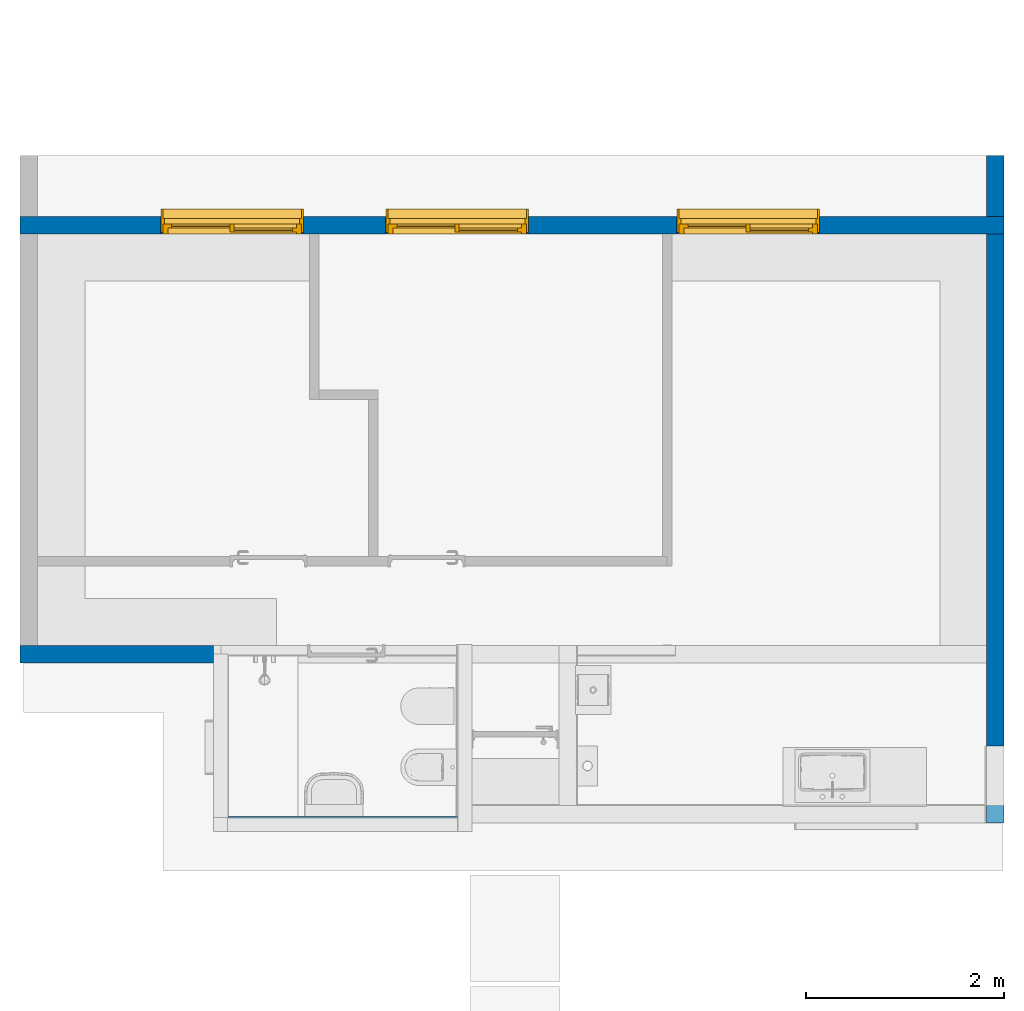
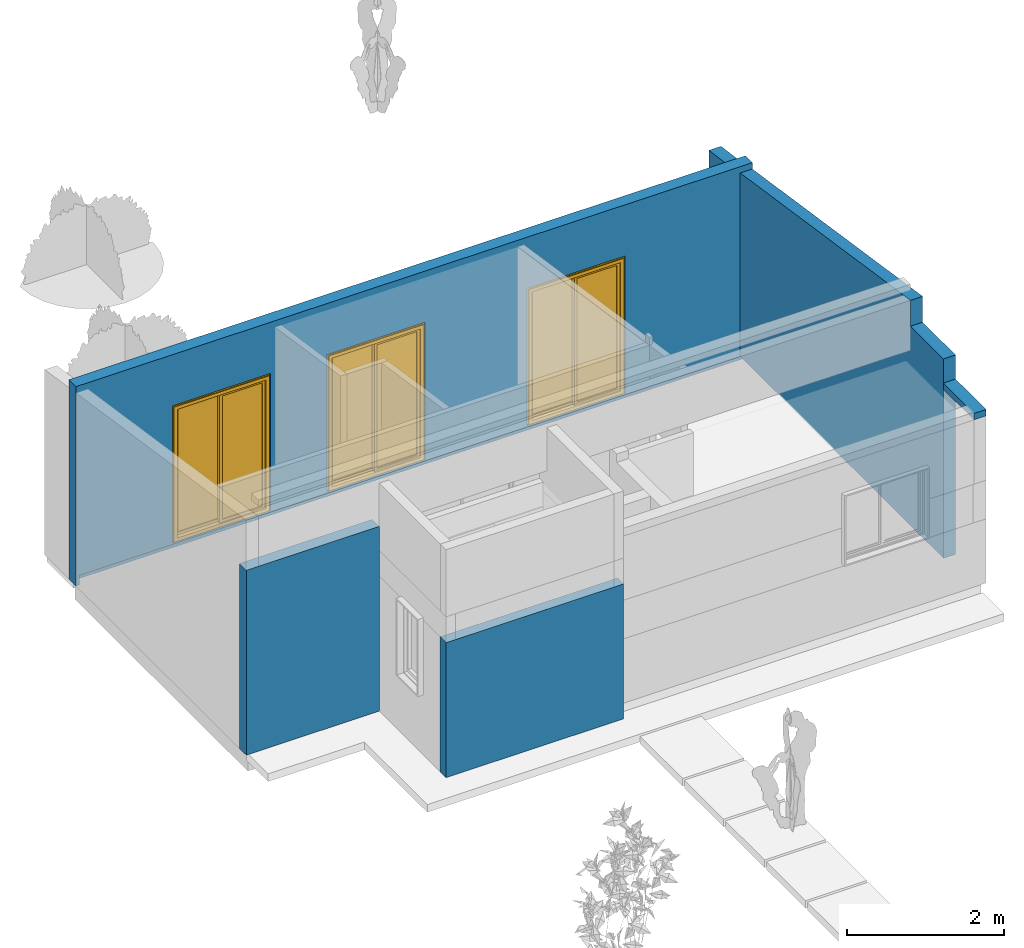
# One storey, part 3 of 10: 6 walls, 6 windows, 7 openings.
"""IFC2X3 building model written with IfcOpenShell, lengths in metres."""

from ifc_helpers import new_model, entity, si_unit, converted_unit, derived_unit, direction, frame, frame_2d, origin, origin_2d_with_axis, place, context, subcontext, project, spatial, polyline, rectangle, outline, extrude, clip, halfspace, bounded_halfspace, faceted_brep, source, transform, mapped, material, material_list, layer, layer_set, layer_usage, type_object, type_shapes, element, fill, save


model = new_model("IFC2X3")

# Units and contexts
model_context = context("Model", 3, precision=1e-05, world=origin(), true_north=direction((6.12303176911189e-17, 1.0)))
body_context = subcontext(model_context, "Body", "Model", "MODEL_VIEW")
ifc_project = project(units=[si_unit("LENGTHUNIT", "METRE"), si_unit("AREAUNIT", "SQUARE_METRE"), si_unit("VOLUMEUNIT", "CUBIC_METRE"), converted_unit("PLANEANGLEUNIT", "DEGREE", entity("IfcRatioMeasure", 0.0174532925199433), si_unit("PLANEANGLEUNIT", "RADIAN"), dimensions=[0, 0, 0, 0, 0, 0, 0]), si_unit("MASSUNIT", "GRAM", prefix="KILO"), derived_unit("MASSDENSITYUNIT", [(si_unit("MASSUNIT", "GRAM", prefix="KILO"), 1), (si_unit("LENGTHUNIT", "METRE"), -3)]), si_unit("TIMEUNIT", "SECOND"), si_unit("FREQUENCYUNIT", "HERTZ"), si_unit("THERMODYNAMICTEMPERATUREUNIT", "DEGREE_CELSIUS"), derived_unit("THERMALTRANSMITTANCEUNIT", [(si_unit("MASSUNIT", "GRAM", prefix="KILO"), 1), (si_unit("THERMODYNAMICTEMPERATUREUNIT", "KELVIN"), -1), (si_unit("TIMEUNIT", "SECOND"), -3)]), derived_unit("VOLUMETRICFLOWRATEUNIT", [(si_unit("LENGTHUNIT", "METRE"), 3), (si_unit("TIMEUNIT", "SECOND"), -1)]), si_unit("ELECTRICCURRENTUNIT", "AMPERE"), si_unit("ELECTRICVOLTAGEUNIT", "VOLT"), si_unit("POWERUNIT", "WATT"), si_unit("FORCEUNIT", "NEWTON", prefix="KILO"), si_unit("ILLUMINANCEUNIT", "LUX"), si_unit("LUMINOUSFLUXUNIT", "LUMEN"), si_unit("LUMINOUSINTENSITYUNIT", "CANDELA"), derived_unit("USERDEFINED", [(si_unit("MASSUNIT", "GRAM", prefix="KILO"), -1), (si_unit("LENGTHUNIT", "METRE"), -2), (si_unit("TIMEUNIT", "SECOND"), 3), (si_unit("LUMINOUSFLUXUNIT", "LUMEN"), 1)]), derived_unit("LINEARVELOCITYUNIT", [(si_unit("LENGTHUNIT", "METRE"), 1), (si_unit("TIMEUNIT", "SECOND"), -1)]), si_unit("PRESSUREUNIT", "PASCAL"), derived_unit("USERDEFINED", [(si_unit("LENGTHUNIT", "METRE"), -2), (si_unit("MASSUNIT", "GRAM", prefix="KILO"), 1), (si_unit("TIMEUNIT", "SECOND"), -2)])], contexts=[model_context])

# Site, building, storey
site_placement = place(None, origin())
site = spatial("IfcSite", under=ifc_project, at=site_placement, Name="Surface", CompositionType="ELEMENT")
building_placement = place(site_placement, origin())
building = spatial("IfcBuilding", under=site, at=building_placement, CompositionType="ELEMENT")
storey_placement = place(building_placement, origin())
storey = spatial("IfcBuildingStorey", under=building, at=storey_placement, Name="Nivel 0.0", CompositionType="ELEMENT", Elevation=0.0)

# Walls
ifc_material_1 = material(Name="EIFS")
ifc_layer_1 = layer(ifc_material_1, 0.05)
ifc_material_2 = material(Name="Aislación hidrófuga")
ifc_layer_2 = layer(ifc_material_2, 0.005)
ifc_material_3 = material(Name="OSB")
ifc_layer_3 = layer(ifc_material_3, 0.011)
ifc_material_4 = material(Name="Bastidor metálico")
ifc_layer_4 = layer(ifc_material_4, 0.1)
ifc_material_5 = material(Name="Placa cementicia")
ifc_layer_5 = layer(ifc_material_5, 0.012)
ifc_layer_set_1 = layer_set([ifc_layer_1, ifc_layer_2, ifc_layer_3, ifc_layer_4, ifc_layer_5], Name="Basic Wall:Pe-SF-001")
ifc_layer_usage_1 = layer_usage(ifc_layer_set_1, "AXIS2", "POSITIVE", -0.089)
wall_type_1 = type_object("IfcWallType", Name="Basic Wall:Pe-SF-001", PredefinedType="STANDARD", material=ifc_layer_set_1)
wall_1_placement = place(storey_placement, frame((0.850414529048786, -3.43054870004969, 2.6), z_axis=(0.0, 0.0, 1.0), x_axis=(0.0, 1.0, 0.0)))
element("IfcWallStandardCase", 1, at=wall_1_placement, inside=storey, type_object=wall_type_1, material=ifc_layer_usage_1, Name="Basic Wall:Pe-SF-001", ObjectType="Basic Wall:Pe-SF-001", context=body_context, shape_type="SweptSolid", body=[
    extrude(rectangle(XDim=0.77876337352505, YDim=0.178, at=frame_2d((0.389381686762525, 2.08166817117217e-17), x_axis=(-1.0, 0.0))), origin(), (0.0, 0.0, 1.0), 0.0999999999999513),
])
ifc_layer_usage_2 = layer_usage(ifc_layer_set_1, "AXIS2", "POSITIVE", -0.089)
wall_2_placement = place(storey_placement, frame((0.850414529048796, 2.70421467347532, -0.175816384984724), z_axis=(0.0, 0.0, 1.0), x_axis=(0.0, 1.0, 0.0)))
element("IfcWallStandardCase", 2, at=wall_2_placement, inside=storey, type_object=wall_type_1, material=ifc_layer_usage_2, Name="Basic Wall:Pe-SF-001", ObjectType="Basic Wall:Pe-SF-001", context=body_context, shape_type="Clipping", body=[
    clip(extrude(rectangle(XDim=0.616637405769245, YDim=0.178, at=frame_2d((0.308318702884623, 2.77555756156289e-17), x_axis=(-1.0, 0.0))), origin(), (0.0, 0.0, 1.0), 2.95545379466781), halfspace(frame((0.0, -0.0889999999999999, 2.95545379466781), z_axis=(0.130665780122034, 0.0, 0.991426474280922), x_axis=(0.0, 1.0, 0.0)), False)),
])
ifc_material_6 = material(Name="Placa roca de Yeso 12,5mm")
ifc_material_list_1 = material_list([ifc_material_1, ifc_material_2, ifc_material_3, ifc_material_4, ifc_material_6])
ifc_layer_6 = layer(ifc_material_1, 0.05)
ifc_layer_7 = layer(ifc_material_2, 0.005)
ifc_layer_8 = layer(ifc_material_3, 0.011)
ifc_layer_9 = layer(ifc_material_4, 0.1)
ifc_layer_10 = layer(ifc_material_6, 0.012)
ifc_layer_set_2 = layer_set([ifc_layer_6, ifc_layer_7, ifc_layer_8, ifc_layer_9, ifc_layer_10], Name="Basic Wall:Pe-SF-002")
wall_type_2 = type_object("IfcWallType", Name="Basic Wall:Pe-SF-002", PredefinedType="STANDARD", material=ifc_layer_set_2)
wall_3_placement = place(storey_placement, frame((-9.00808547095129, -1.72354870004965, -0.175)))
element("IfcWall", 3, at=wall_3_placement, inside=storey, type_object=wall_type_2, material=ifc_material_list_1, Name="Basic Wall:Pe-SF-002", ObjectType="Basic Wall:Pe-SF-002", context=body_context, shape_type="Brep", body=[
    faceted_brep([(0.0, -0.0889999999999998, 0.0), (1.95607178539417, -0.0890000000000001, 0.0), (1.95607178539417, -0.0890000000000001, 2.87499999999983), (0.0, -0.0889999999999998, 2.87499999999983), (0.0, 0.0890000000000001, 2.87499999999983), (0.177999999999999, 0.0889999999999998, 2.87499999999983), (1.95607178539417, 0.0889999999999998, 2.87499999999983), (1.95607178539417, 0.0889999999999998, 0.15), (0.177999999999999, 0.0889999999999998, 0.15), (0.05500000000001, 0.0889999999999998, 0.15), (0.05500000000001, 0.0889999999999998, 0.0), (0.0, 0.0890000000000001, 0.0), (0.0550000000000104, -0.0340000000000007, 0.0), (1.95607178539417, -0.0339999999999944, 0.0), (0.0, -0.0885000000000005, 2.87499999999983), (0.0550000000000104, -0.0340000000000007, 0.15), (1.95607178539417, 0.0, 0.15), (1.95607178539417, -0.0339999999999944, 0.15)], [[[0, 1, 2, 3]], [[4, 5, 6, 7, 8, 9, 10, 11]], [[1, 0, 11, 10, 12, 13]], [[3, 2, 6, 5, 4, 14]], [[0, 3, 14, 4, 11]], [[15, 9, 8, 7, 16, 17]], [[15, 12, 10, 9]], [[12, 15, 17, 13]], [[2, 1, 13, 17, 16, 7, 6]]]),
])

# Wall, openings, windows
ifc_layer_usage_3 = layer_usage(ifc_layer_set_2, "AXIS2", "POSITIVE", -0.089)
wall_4_placement = place(storey_placement, frame((0.939414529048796, 2.61521467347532, -0.175), z_axis=(0.0, 0.0, 1.0), x_axis=(-1.0, 0.0, 0.0)))
wall_4 = element("IfcWallStandardCase", 4, at=wall_4_placement, inside=storey, type_object=wall_type_2, material=ifc_layer_usage_3, Name="Basic Wall:Pe-SF-002", ObjectType="Basic Wall:Pe-SF-002", context=body_context, shape_type="SweptSolid", body=[
    extrude(rectangle(XDim=9.94775000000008, YDim=0.178, at=frame_2d((4.97387500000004, -1.87350135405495e-16), x_axis=(-1.0, 0.0))), origin(), (0.0, 0.0, 1.0), 3.1),
])
opening_1_placement = place(storey_placement, frame((0.939414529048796, 2.61521467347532, -0.175), z_axis=(0.0, 0.0, 1.0), x_axis=(-1.0, 0.0, 0.0)))
element("IfcOpeningElement", 5, at=opening_1_placement, cuts=wall_4, Name="Basic Wall:Pe-SF-002:1", ObjectType="Opening", context=body_context, shape_type="SweptSolid", body=[
    extrude(rectangle(XDim=0.15, YDim=0.122999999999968, at=frame_2d((0.0, -2.70616862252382e-16), x_axis=(1.0, 0.0))), frame((9.89250000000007, 0.0275000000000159, 0.0750000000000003), z_axis=(-1.0, 0.0, 0.0), x_axis=(0.0, 0.0, 1.0)), (0.0, 0.0, 1.0), 9.84800000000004),
])
opening_2_placement = place(wall_4_placement, frame((8.50405141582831, 0.0889999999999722, 0.174183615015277)))
opening_2 = element("IfcOpeningElement", 6, at=opening_2_placement, cuts=wall_4, Name="Vtana Corrediza:PV1:1", ObjectType="Opening", context=body_context, shape_type="SweptSolid", body=[
    extrude(rectangle(XDim=2.1, YDim=1.4, at=frame_2d((1.05, 0.7), x_axis=(1.0, 0.0))), frame((0.0, 0.0, 0.0), z_axis=(0.0, -1.0, 0.0), x_axis=(0.0, 0.0, 1.0)), (0.0, 0.0, 1.0), 0.178),
])
opening_3_placement = place(wall_4_placement, frame((8.52905141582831, 0.0889999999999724, 0.174183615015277)))
opening_3 = element("IfcOpeningElement", 7, at=opening_3_placement, cuts=wall_4, Name="Premarco metálico:Premarco metálico PV1:1", ObjectType="Opening", context=body_context, shape_type="SweptSolid", body=[
    extrude(rectangle(XDim=2.13, YDim=1.44, at=frame_2d((1.065, 0.719999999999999), x_axis=(1.0, 0.0))), frame((0.0, 0.0, 0.0), z_axis=(0.0, -1.0, 0.0), x_axis=(0.0, 0.0, 1.0)), (0.0, 0.0, 1.0), 0.178),
])
opening_4_placement = place(wall_4_placement, frame((6.22850000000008, 0.0889999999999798, 0.174183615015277)))
opening_4 = element("IfcOpeningElement", 8, at=opening_4_placement, cuts=wall_4, Name="Vtana Corrediza:PV1:1", ObjectType="Opening", context=body_context, shape_type="SweptSolid", body=[
    extrude(rectangle(XDim=2.1, YDim=1.4, at=frame_2d((1.05, 0.7), x_axis=(1.0, 0.0))), frame((0.0, 0.0, 0.0), z_axis=(0.0, -1.0, 0.0), x_axis=(0.0, 0.0, 1.0)), (0.0, 0.0, 1.0), 0.178),
])
opening_5_placement = place(wall_4_placement, frame((6.25350000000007, 0.0889999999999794, 0.174183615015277)))
opening_5 = element("IfcOpeningElement", 9, at=opening_5_placement, cuts=wall_4, Name="Premarco metálico:Premarco metálico PV1:1", ObjectType="Opening", context=body_context, shape_type="SweptSolid", body=[
    extrude(rectangle(XDim=2.13, YDim=1.44, at=frame_2d((1.065, 0.719999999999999), x_axis=(1.0, 0.0))), frame((0.0, 0.0, 0.0), z_axis=(0.0, -1.0, 0.0), x_axis=(0.0, 0.0, 1.0)), (0.0, 0.0, 1.0), 0.178),
])
opening_6_placement = place(wall_4_placement, frame((3.28650012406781, 0.088999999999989, 0.174183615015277)))
opening_6 = element("IfcOpeningElement", 10, at=opening_6_placement, cuts=wall_4, Name="Vtana Corrediza:PV1:1", ObjectType="Opening", context=body_context, shape_type="SweptSolid", body=[
    extrude(rectangle(XDim=2.1, YDim=1.4, at=frame_2d((1.05, 0.7), x_axis=(1.0, 0.0))), frame((0.0, 0.0, 0.0), z_axis=(0.0, -1.0, 0.0), x_axis=(0.0, 0.0, 1.0)), (0.0, 0.0, 1.0), 0.178),
])
opening_7_placement = place(wall_4_placement, frame((3.3115001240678, 0.0889999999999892, 0.174183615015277)))
opening_7 = element("IfcOpeningElement", 11, at=opening_7_placement, cuts=wall_4, Name="Premarco metálico:Premarco metálico PV1:1", ObjectType="Opening", context=body_context, shape_type="SweptSolid", body=[
    extrude(rectangle(XDim=2.13, YDim=1.44, at=frame_2d((1.065, 0.719999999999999), x_axis=(1.0, 0.0))), frame((0.0, 0.0, 0.0), z_axis=(0.0, -1.0, 0.0), x_axis=(0.0, 0.0, 1.0)), (0.0, 0.0, 1.0), 0.178),
])
ifc_material_7 = material(Name="Glass")
ifc_material_8 = material(Name="Laminate, White")
ifc_material_list_2 = material_list([ifc_material_7, ifc_material_8])
ifc_material_list_3 = material_list([ifc_material_7, ifc_material_8])
window_style_1 = type_object("IfcWindowStyle", Name="PV1", ConstructionType="NOTDEFINED", OperationType="NOTDEFINED", ParameterTakesPrecedence=False, Sizeable=False, material=ifc_material_list_3)
shared_shape_1 = source(origin(), body_context, "Body", "SweptSolid", [
    extrude(rectangle(XDim=0.59, YDim=0.00500000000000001, at=frame_2d((2.77555756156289e-17, 4.33680868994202e-18), x_axis=(1.0, 0.0))), frame((1.01500000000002, 0.0374999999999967, 0.0900000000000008)), (0.0, 0.0, 1.0), 1.91999999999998),
    extrude(rectangle(XDim=0.590000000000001, YDim=0.005, at=origin_2d_with_axis()), frame((0.385000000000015, 0.0774999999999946, 0.0900000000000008)), (0.0, 0.0, 1.0), 1.91999999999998),
    extrude(outline(polyline([(-0.334999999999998, -1.0), (0.334999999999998, -1.0), (0.334999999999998, 1.0), (-0.334999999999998, 1.0), (-0.334999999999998, -1.0)]), holes=[polyline([(-0.294999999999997, -0.959999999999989), (-0.294999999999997, 0.959999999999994), (0.294999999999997, 0.959999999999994), (0.294999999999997, -0.959999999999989), (-0.294999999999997, -0.959999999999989)])]), frame((1.01500000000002, 0.0599999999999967, 1.04999999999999), z_axis=(0.0, -1.0, 0.0), x_axis=(-1.0, 0.0, 0.0)), (0.0, 0.0, 1.0), 0.04),
    extrude(outline(polyline([(-0.335000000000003, -1.0), (0.335000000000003, -1.0), (0.335000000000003, 1.0), (-0.335000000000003, 1.0), (-0.335000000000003, -1.0)]), holes=[polyline([(0.295000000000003, -0.959999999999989), (-0.295000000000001, -0.959999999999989), (-0.295000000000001, 0.959999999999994), (0.295000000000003, 0.959999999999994), (0.295000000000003, -0.959999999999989)])]), frame((0.385000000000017, 0.0999999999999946, 1.04999999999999), z_axis=(0.0, -1.0, 0.0), x_axis=(-1.0, 0.0, 0.0)), (0.0, 0.0, 1.0), 0.04),
    extrude(outline(polyline([(-0.7, -1.05), (0.7, -1.05), (0.7, 1.05), (-0.7, 1.05), (-0.7, -1.05)]), holes=[polyline([(-0.650000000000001, -1.0), (-0.650000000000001, 1.0), (0.65, 1.0), (0.65, -1.0), (-0.650000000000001, -1.0)])]), frame((0.700000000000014, 0.0999999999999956, 1.05), z_axis=(0.0, -1.0, 0.0), x_axis=(-1.0, 0.0, 0.0)), (0.0, 0.0, 1.0), 0.0999999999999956),
])
type_shapes(window_style_1, [shared_shape_1])
window_1_placement = place(opening_2_placement, frame((0.0, 0.0, 0.0), z_axis=(0.0, 0.0, 1.0), x_axis=(-1.0, 0.0, 0.0)))
window_1 = element("IfcWindow", 12, at=window_1_placement, inside=storey, type_object=window_style_1, material=ifc_material_list_2, Name="Vtana Corrediza:PV1", ObjectType="Vtana Corrediza:PV1", OverallHeight=2.1, OverallWidth=1.4, context=body_context, shape_type="MappedRepresentation", body=[
    mapped(shared_shape_1, transform((0.0, 0.0, 0.0), scale=1.0)),
])
fill(opening_2, window_1)
ifc_material_list_4 = material_list([ifc_material_7, ifc_material_8])
window_2_placement = place(opening_4_placement, frame((0.0, 0.0, 0.0), z_axis=(0.0, 0.0, 1.0), x_axis=(-1.0, 0.0, 0.0)))
window_2 = element("IfcWindow", 13, at=window_2_placement, inside=storey, type_object=window_style_1, material=ifc_material_list_4, Name="Vtana Corrediza:PV1", ObjectType="Vtana Corrediza:PV1", OverallHeight=2.1, OverallWidth=1.4, context=body_context, shape_type="MappedRepresentation", body=[
    mapped(shared_shape_1, transform((0.0, 0.0, 0.0), scale=1.0)),
])
fill(opening_4, window_2)
ifc_material_list_5 = material_list([ifc_material_7, ifc_material_8])
window_3_placement = place(opening_6_placement, frame((0.0, 0.0, 0.0), z_axis=(0.0, 0.0, 1.0), x_axis=(-1.0, 0.0, 0.0)))
window_3 = element("IfcWindow", 14, at=window_3_placement, inside=storey, type_object=window_style_1, material=ifc_material_list_5, Name="Vtana Corrediza:PV1", ObjectType="Vtana Corrediza:PV1", OverallHeight=2.1, OverallWidth=1.4, context=body_context, shape_type="MappedRepresentation", body=[
    mapped(shared_shape_1, transform((0.0, 0.0, 0.0), scale=1.0)),
])
fill(opening_6, window_3)
ifc_material_9 = material(Name="Chapa plegada")
window_style_2 = type_object("IfcWindowStyle", Name="Premarco metálico PV1", ConstructionType="NOTDEFINED", OperationType="NOTDEFINED", ParameterTakesPrecedence=False, Sizeable=False, material=ifc_material_9)
shared_shape_2 = source(origin(), body_context, "Body", "Brep", [
    faceted_brep([(1.54853617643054, 0.154000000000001, 2.092), (1.54853617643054, 0.154000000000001, 0.0380000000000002), (1.54853617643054, 0.0140000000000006, 0.0379999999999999), (1.54853617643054, 0.0140000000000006, 2.092), (0.184536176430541, 0.0139999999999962, 0.0380000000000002), (0.184536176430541, 0.0139999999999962, 2.092), (1.58653617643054, 0.0140000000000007, 0.0), (1.58653617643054, 0.0140000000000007, 2.13), (0.146536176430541, 0.0139999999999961, 2.13), (0.146536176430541, 0.0139999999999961, 0.0), (0.18453617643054, 0.153999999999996, 0.0380000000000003), (0.18453617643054, 0.153999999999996, 2.092), (1.56753617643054, 0.154000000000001, 2.111), (1.56753617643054, 0.154000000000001, 0.0190000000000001), (0.16553617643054, 0.153999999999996, 0.0190000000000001), (0.16553617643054, 0.153999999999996, 2.111), (1.56753617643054, 0.249000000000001, 2.111), (1.56753617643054, 0.249000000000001, 0.0190000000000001), (0.16553617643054, 0.248999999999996, 0.0190000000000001), (0.16553617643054, 0.248999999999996, 2.111), (1.58653617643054, 0.249000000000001, 2.13), (1.58653617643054, 0.249000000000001, 0.0), (0.14653617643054, 0.248999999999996, 0.0), (0.14653617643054, 0.248999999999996, 2.13)], [[[0, 1, 2, 3]], [[3, 2, 4, 5], [6, 7, 8, 9]], [[1, 10, 4, 2]], [[1, 0, 11, 10], [12, 13, 14, 15]], [[16, 17, 13, 12]], [[17, 18, 14, 13]], [[17, 16, 19, 18], [20, 21, 22, 23]], [[7, 6, 21, 20]], [[6, 9, 22, 21]], [[10, 11, 5, 4]], [[18, 19, 15, 14]], [[9, 8, 23, 22]], [[11, 0, 3, 5]], [[19, 16, 12, 15]], [[8, 7, 20, 23]]], outer=[[True], [False, True], [True], [False, True], [True], [True], [False, True], [True], [True], [True], [True], [True], [True], [True], [True]]),
])
type_shapes(window_style_2, [shared_shape_2])
window_4_placement = place(opening_3_placement, frame((0.140000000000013, 0.0, 0.0), z_axis=(0.0, 0.0, 1.0), x_axis=(-1.0, 0.0, 0.0)))
window_4 = element("IfcWindow", 15, at=window_4_placement, inside=storey, type_object=window_style_2, material=ifc_material_9, Name="Premarco metálico:Premarco metálico PV1", ObjectType="Premarco metálico:Premarco metálico PV1", OverallHeight=2.13, OverallWidth=1.44, context=body_context, shape_type="MappedRepresentation", body=[
    mapped(shared_shape_2, transform((0.0, 0.0, 0.0), scale=1.0)),
])
fill(opening_3, window_4)
window_5_placement = place(opening_5_placement, frame((0.140000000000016, 0.0, 0.0), z_axis=(0.0, 0.0, 1.0), x_axis=(-1.0, 0.0, 0.0)))
window_5 = element("IfcWindow", 16, at=window_5_placement, inside=storey, type_object=window_style_2, material=ifc_material_9, Name="Premarco metálico:Premarco metálico PV1", ObjectType="Premarco metálico:Premarco metálico PV1", OverallHeight=2.13, OverallWidth=1.44, context=body_context, shape_type="MappedRepresentation", body=[
    mapped(shared_shape_2, transform((0.0, 0.0, 0.0), scale=1.0)),
])
fill(opening_5, window_5)
window_6_placement = place(opening_7_placement, frame((0.140000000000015, 0.0, 0.0), z_axis=(0.0, 0.0, 1.0), x_axis=(-1.0, 0.0, 0.0)))
window_6 = element("IfcWindow", 17, at=window_6_placement, inside=storey, type_object=window_style_2, material=ifc_material_9, Name="Premarco metálico:Premarco metálico PV1", ObjectType="Premarco metálico:Premarco metálico PV1", OverallHeight=2.13, OverallWidth=1.44, context=body_context, shape_type="MappedRepresentation", body=[
    mapped(shared_shape_2, transform((0.0, 0.0, 0.0), scale=1.0)),
])
fill(opening_7, window_6)

# Walls
ifc_layer_usage_4 = layer_usage(ifc_layer_set_2, "AXIS2", "POSITIVE", -0.089)
wall_5_placement = place(storey_placement, frame((0.850414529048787, -2.65178532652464, -0.0249999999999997), z_axis=(0.0, 0.0, 1.0), x_axis=(0.0, 1.0, 0.0)))
element("IfcWallStandardCase", 18, at=wall_5_placement, inside=storey, type_object=wall_type_2, material=ifc_layer_usage_4, Name="Basic Wall:Pe-SF-002", ObjectType="Basic Wall:Pe-SF-002", context=body_context, shape_type="Clipping", body=[
    clip(clip(extrude(rectangle(XDim=5.17799999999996, YDim=0.178, at=frame_2d((2.58899999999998, -6.93889390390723e-18), x_axis=(-1.0, 0.0))), origin(), (0.0, 0.0, 1.0), 3.50319373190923), bounded_halfspace(frame((0.839236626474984, -0.0889999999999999, 3.50319373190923), z_axis=(0.148340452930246, 0.0, 0.988936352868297), x_axis=(0.0, 1.0, 0.0)), False, frame((0.839236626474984, -0.0889999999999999, 3.50319373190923)), polyline([(0.0, 0.0), (4.33876337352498, 0.0), (4.33876337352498, 0.178), (0.178499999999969, 0.178), (0.000499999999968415, 0.178), (0.0, 0.178), (0.0, 0.0)]))), bounded_halfspace(frame((0.0, -0.0889999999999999, 3.1), z_axis=(0.0, 0.0, 1.0), x_axis=(0.0, 1.0, 0.0)), False, frame((0.0, -0.0889999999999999, 3.1)), polyline([(0.0, 0.0), (0.839236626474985, 0.0), (0.839236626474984, 0.178), (0.0, 0.178), (0.0, 0.0)]))),
])
ifc_material_10 = material(Name="Revestimiento exterior  tipo siding")
ifc_material_11 = material(Name="Bastidor metálico+Aislación térmica")
ifc_material_12 = material(Name="Revestimiento Cerámico muro")
ifc_material_list_6 = material_list([ifc_material_10, ifc_material_2, ifc_material_3, ifc_material_11, ifc_material_6, ifc_material_12])
ifc_layer_11 = layer(ifc_material_10, 0.012)
ifc_layer_12 = layer(ifc_material_2, 0.005)
ifc_layer_13 = layer(ifc_material_3, 0.011)
ifc_layer_14 = layer(ifc_material_11, 0.1)
ifc_layer_15 = layer(ifc_material_6, 0.012)
ifc_layer_16 = layer(ifc_material_12, 0.012)
ifc_layer_set_3 = layer_set([ifc_layer_11, ifc_layer_12, ifc_layer_13, ifc_layer_14, ifc_layer_15, ifc_layer_16], Name="Basic Wall:Pe-SF-006")
wall_type_3 = type_object("IfcWallType", Name="Basic Wall:Pe-SF-006", PredefinedType="STANDARD", material=ifc_layer_set_3)
wall_6_placement = place(storey_placement, frame((-7.05201368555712, -3.44078532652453, -0.175)))
element("IfcWall", 19, at=wall_6_placement, inside=storey, type_object=wall_type_3, material=ifc_material_list_6, Name="Basic Wall:Pe-SF-006", ObjectType="Basic Wall:Pe-SF-006", context=body_context, shape_type="Brep", body=[
    faceted_brep([(0.0, -0.0760000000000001, 0.0), (2.61070171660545, -0.0760000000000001, 0.0), (2.61070171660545, -0.0760000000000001, 2.1), (2.47070171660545, -0.0760000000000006, 2.1), (0.140000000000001, -0.0760000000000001, 2.1), (0.0, -0.0760000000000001, 2.1), (0.0, 0.0760000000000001, 2.1), (0.152, 0.0760000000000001, 2.1), (2.45870171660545, 0.0759999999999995, 2.1), (2.61070171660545, 0.0760000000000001, 2.1), (2.61070171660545, 0.0760000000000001, 0.15), (0.152, 0.0760000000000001, 0.15), (0.0360000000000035, 0.0760000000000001, 0.15), (0.0360000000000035, 0.0760000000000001, 0.0), (0.0, 0.0760000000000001, 0.0), (0.0360000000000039, -0.0400000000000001, 0.0), (2.57099999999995, -0.039999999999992, 0.0), (2.57099999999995, 0.0649999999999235, 0.0), (2.61070171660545, 0.0649999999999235, 0.0), (2.57099999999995, -0.039999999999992, 0.15), (0.0360000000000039, -0.0400000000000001, 0.15), (2.61070171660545, 0.0649999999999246, 0.15), (2.57099999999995, 0.0649999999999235, 0.15)], [[[0, 1, 2, 3, 4, 5]], [[6, 7, 8, 9, 10, 11, 12, 13, 14]], [[1, 0, 14, 13, 15, 16, 17, 18]], [[5, 4, 3, 2, 9, 8, 7, 6]], [[14, 0, 5, 6]], [[19, 20, 12, 11, 10, 21, 22]], [[20, 19, 16, 15]], [[20, 15, 13, 12]], [[17, 22, 21, 18]], [[19, 22, 17, 16]], [[9, 2, 1, 18, 21, 10]]]),
])

save(model, "model.ifc")
